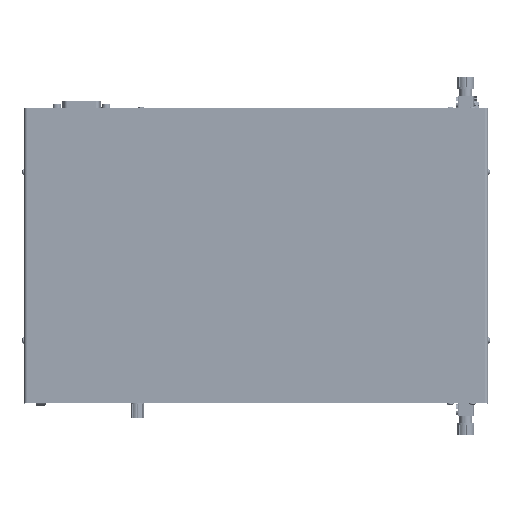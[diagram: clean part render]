
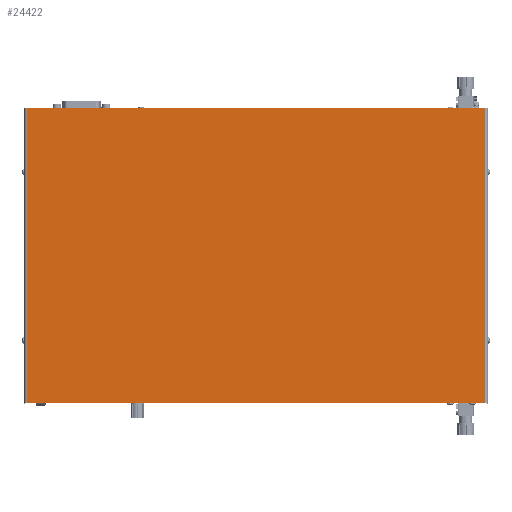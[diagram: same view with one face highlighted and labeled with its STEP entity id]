
A CAD part, top view. The second image highlights one B-rep face of the part: STEP entity #24422.
In plain terms, the highlighted planar face has unit normal (0, 0, 1).
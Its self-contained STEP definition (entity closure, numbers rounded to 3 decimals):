
#24422=ADVANCED_FACE('',(#50386),#50387,.T.);
#50386=FACE_OUTER_BOUND('',#79958,.T.);
#50387=PLANE('',#79959);
#79958=EDGE_LOOP('',(#152631,#152632,#152633,#152634));
#79959=AXIS2_PLACEMENT_3D('',#152635,#152636,#152637);
#152631=ORIENTED_EDGE('',*,*,#184800,.F.);
#152632=ORIENTED_EDGE('',*,*,#184470,.T.);
#152633=ORIENTED_EDGE('',*,*,#184802,.T.);
#152634=ORIENTED_EDGE('',*,*,#184577,.F.);
#152635=CARTESIAN_POINT('',(333.282,310.25,100.184));
#152636=DIRECTION('',(0.,0.,1.0));
#152637=DIRECTION('',(-1.0,0.,0.));
#184470=EDGE_CURVE('',#226785,#226783,#226786,.T.);
#184577=EDGE_CURVE('',#226895,#226890,#226897,.T.);
#184800=EDGE_CURVE('',#226785,#226895,#227224,.T.);
#184802=EDGE_CURVE('',#226783,#226890,#227226,.T.);
#226783=VERTEX_POINT('',#286036);
#226785=VERTEX_POINT('',#286038);
#226786=LINE('',#286039,#286040);
#226890=VERTEX_POINT('',#286193);
#226895=VERTEX_POINT('',#286199);
#226897=LINE('',#286201,#286202);
#227224=LINE('',#286684,#286685);
#227226=LINE('',#286687,#286688);
#286036=CARTESIAN_POINT('',(5.032,30.25,100.184));
#286038=CARTESIAN_POINT('',(5.032,310.25,100.184));
#286039=CARTESIAN_POINT('',(5.032,310.25,100.184));
#286040=VECTOR('',#320225,1.0);
#286193=CARTESIAN_POINT('',(439.033,30.25,100.184));
#286199=CARTESIAN_POINT('',(439.033,310.25,100.184));
#286201=CARTESIAN_POINT('',(439.033,310.25,100.184));
#286202=VECTOR('',#320285,1.0);
#286684=CARTESIAN_POINT('',(227.532,310.25,100.184));
#286685=VECTOR('',#320471,1.0);
#286687=CARTESIAN_POINT('',(227.532,30.25,100.184));
#286688=VECTOR('',#320472,1.0);
#320225=DIRECTION('',(0.0,-1.0,0.0));
#320285=DIRECTION('',(0.0,-1.0,0.0));
#320471=DIRECTION('',(1.0,0.0,0.0));
#320472=DIRECTION('',(1.0,0.0,0.0));
